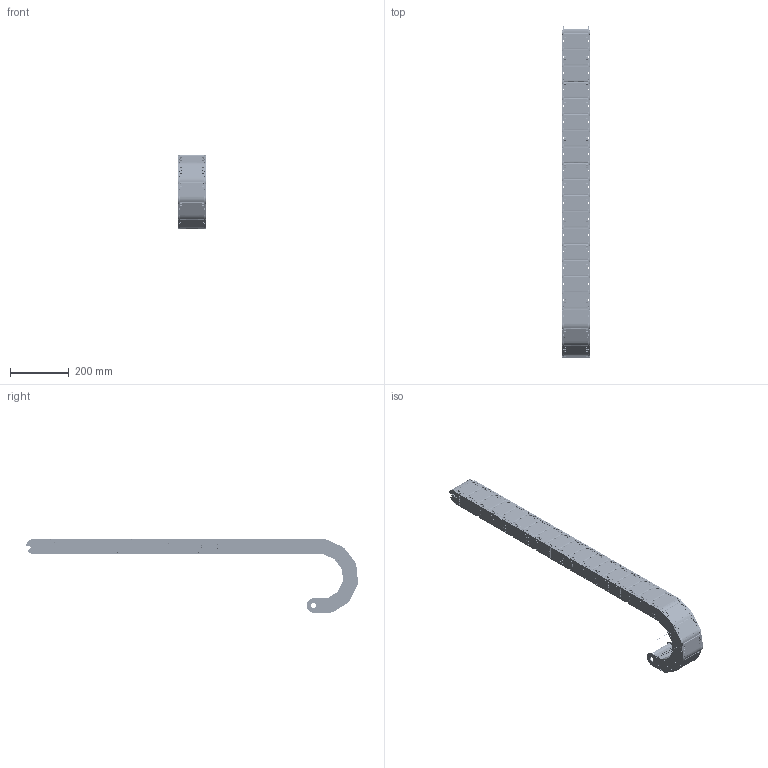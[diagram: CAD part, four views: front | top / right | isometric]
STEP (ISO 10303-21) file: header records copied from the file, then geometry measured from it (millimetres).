
FILE_DESCRIPTION((''),'2;1');
FILE_NAME('C:\Uebbing\PARAMETERKETTEN\KOLIBRI\Kol_50_095_5\KOLIBRI 50_095_5_R100.stp','2015-06-24T13:56:01',('Uebbing'),(''),'Autodesk Inventor 10','Autodesk Inventor 10','');
FILE_SCHEMA(('AUTOMOTIVE_DESIGN { 1 0 10303 214 1 1 1 1 }'));
Length unit declared in the file: millimetre
Products named in the file (5): KOLIBRI 50_095_5_PARAMETRISCH; Achse; Kol_50_095_5 Glied; Kol_50_095_5_Lasche; Kol_50_095_5_Klappdeckel
Assembly tree (27 placements, depth 3):
  KOLIBRI 50_095_5_PARAMETRISCH
    Achse
    Kol_50_095_5 Glied  x24
      Kol_50_095_5_Lasche
      Kol_50_095_5_Klappdeckel
Bounding box: 95 x 1126.51 x 250 mm (x, y, z)
Volume: 1596848.8 mm3; surface area: 1113963.6 mm2
Topology: 49 solids, 49 shells, 18219 faces, 49684 edges, 32379 vertices
Faces by surface type: plane 10058, cylinder 5425, bspline 2640, cone 72, sphere 24
Full cylindrical faces by diameter (mm): 1 x1, 2.011 x48, 3.531 x48, 4 x144, 6 x48, 8 x144, 16 x48
Entity records: 24966 total; most frequent: CARTESIAN_POINT 5463, ORIENTED_EDGE 4074, DIRECTION 3930, EDGE_CURVE 2037, VECTOR 1466, LINE 1466, VERTEX_POINT 1342, AXIS2_PLACEMENT_3D 1232
